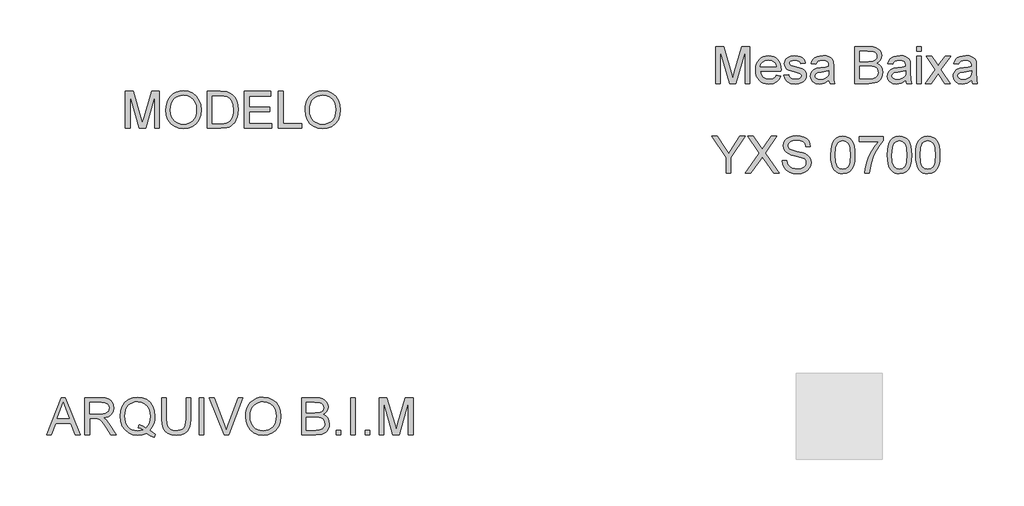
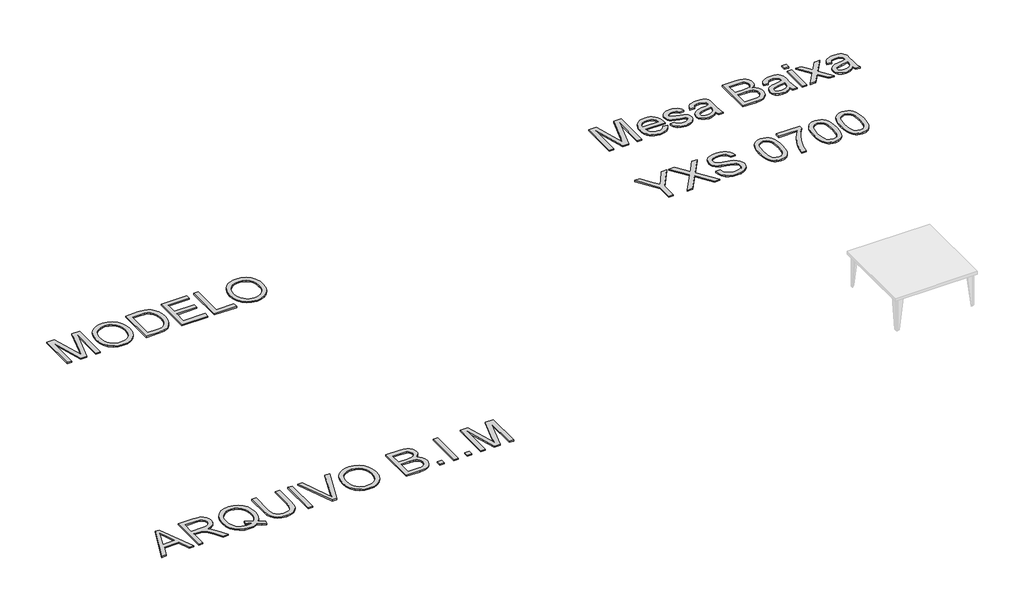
# One storey, part 22 of 26: 3 proxies.
"""IFC4 building model written with IfcOpenShell, lengths in millimetres."""

from ifc_helpers import new_model, si_unit, origin, origin_with_axes, place, context, project, spatial, polyline, outline, extrude, element, save

model = new_model("IFC4")

# Units and contexts
model_context = context("Model", 3, world=origin())
ifc_project = project(units=[si_unit("LENGTHUNIT", "METRE", prefix="MILLI")], contexts=[model_context])

# Site, building, storey
site = spatial("IfcSite", under=ifc_project)
building = spatial("IfcBuilding", under=site)
storey = spatial("IfcBuildingStorey", under=building, Name="Marelli - Linha YOUNG - Planta Baixa", Elevation=0.0)

# Proxies
placement = place(None, origin())
element("IfcBuildingElementProxy", 1, Name="300mm Arial", ObjectType="300mm Arial", at=placement, inside=storey, context=model_context, shape_type="SweptSolid", body=[
    extrude(outline(polyline([(-15155.2324867, 12585.3581335), (-15155.2324867, 12886.7270639), (-15090.4116792, 12886.7270639), (-15028.7546568, 12674.3119999), (-15016.3202454, 12629.9454313), (-15002.8557643, 12677.9908199), (-14942.2288115, 12886.7270639), (-14877.408004, 12886.7270639), (-14877.408004, 12585.3581335), (-14915.0791203, 12585.3581335), (-14915.0791203, 12849.0559476), (-14990.7892349, 12585.3581335), (-15041.8512558, 12585.3581335), (-15117.5613704, 12849.0559476), (-15117.5613704, 12585.3581335), (-15155.2324867, 12585.3581335)])), origin_with_axes(), (0.0, 0.0, 1.0), 10.0),
    extrude(outline(polyline([(-14661.2405436, 12651.282587), (-14624.3051913, 12646.5736975), (-14637.6133225, 12618.7434245), (-14658.8493107, 12597.9396977), (-14687.5349092, 12584.9718574), (-14723.1918716, 12580.6492439), (-14746.5661739, 12582.5139458), (-14767.3928933, 12588.1080514), (-14785.67203, 12597.4315607), (-14801.4035838, 12610.4844737), (-14814.0541259, 12626.903507), (-14823.0902274, 12646.3253771), (-14828.5118883, 12668.750084), (-14830.3191086, 12694.1776276), (-14828.4934942, 12720.4673947), (-14823.016651, 12743.6393619), (-14813.888579, 12763.6935292), (-14801.1092782, 12780.6298965), (-14785.4191111, 12794.0851805), (-14767.5584402, 12803.6960976), (-14747.5272656, 12809.4626479), (-14725.3255872, 12811.3848313), (-14703.8389794, 12809.4672464), (-14684.4079123, 12803.7144917), (-14667.0323858, 12794.1265672), (-14651.7123999, 12780.7034729), (-14639.2067114, 12763.8038938), (-14630.2740767, 12743.7865147), (-14624.9144959, 12720.6513357), (-14623.1279689, 12694.3983568), (-14623.3486981, 12684.2448138), (-14792.6479923, 12684.2448138), (-14786.1272839, 12656.0466588), (-14770.9797428, 12635.3165084), (-14749.1183552, 12622.5693973), (-14722.4561076, 12618.3203602), (-14702.4065389, 12620.2885289), (-14685.5207553, 12626.1930349), (-14671.7987569, 12636.4017603), (-14661.2405436, 12651.282587)]), holes=[polyline([(-14792.6479923, 12721.9159301), (-14660.7990852, 12721.9159301), (-14665.8942509, 12741.818346), (-14675.882247, 12756.0553792), (-14697.8448021, 12769.2991311), (-14725.47274, 12773.713715), (-14750.8657947, 12770.1912449), (-14771.8626596, 12759.6238346), (-14786.4583777, 12743.1519182), (-14792.6479923, 12721.9159301)])]), origin_with_axes(), (0.0, 0.0, 1.0), 10.0),
    extrude(outline(polyline([(-14599.5835212, 12651.282587), (-14561.9124049, 12655.9914765), (-14555.9711107, 12639.8782452), (-14544.4747984, 12628.0324449), (-14527.3498915, 12620.7483814), (-14504.5228137, 12618.3203602), (-14481.9716474, 12620.5460463), (-14466.1159334, 12627.2231045), (-14456.7349425, 12636.898401), (-14453.6079455, 12648.1188018), (-14456.7533366, 12657.7205219), (-14466.1895098, 12665.0413736), (-14504.9642721, 12675.7835279), (-14561.6916757, 12694.2144158), (-14576.0482706, 12703.4758451), (-14586.450134, 12715.7355126), (-14592.7685073, 12730.2116691), (-14594.8746317, 12746.1225654), (-14593.1823745, 12760.7182835), (-14588.105603, 12774.1919616), (-14580.1041696, 12786.0101707), (-14569.6379268, 12795.6394819), (-14545.6888089, 12806.7863064), (-14513.2784052, 12811.3848313), (-14488.7590702, 12809.5362243), (-14467.4403086, 12803.9904032), (-14450.2970076, 12795.289994), (-14438.3040545, 12783.9776227), (-14430.3578034, 12769.2163576), (-14425.3546083, 12750.1692673), (-14463.0257246, 12745.4603778), (-14467.7805994, 12757.3153751), (-14477.1891814, 12766.2457105), (-14491.3434412, 12771.8467139), (-14510.3353492, 12773.713715), (-14531.9668105, 12771.9294873), (-14546.3877847, 12766.5768043), (-14554.4995827, 12758.8512824), (-14557.2035154, 12749.9485381), (-14552.715355, 12738.9856547), (-14538.6622628, 12730.6715216), (-14506.2150709, 12722.6516941), (-14450.922407, 12704.9197819), (-14436.3174918, 12696.4401019), (-14425.2442437, 12684.833425), (-14418.2636829, 12670.0629629), (-14415.9368292, 12652.0919274), (-14418.668353, 12633.5138866), (-14426.8629245, 12616.0394919), (-14440.2078439, 12601.0391035), (-14458.3904115, 12589.883082), (-14480.3529666, 12582.9577034), (-14505.0378485, 12580.6492439), (-14543.0216645, 12585.1006161), (-14570.7415728, 12598.4547325), (-14589.2460372, 12620.5644404), (-14599.5835212, 12651.282587)])), origin_with_axes(), (0.0, 0.0, 1.0), 10.0),
    extrude(outline(polyline([(-14232.2901372, 12613.6114707), (-14250.2887639, 12598.178821), (-14268.8208194, 12588.0804602), (-14288.3093681, 12582.507048), (-14309.1774742, 12580.6492439), (-14340.658976, 12585.1190102), (-14363.8815269, 12598.5283089), (-14378.2013336, 12618.8905773), (-14382.9746025, 12644.2192527), (-14381.1719807, 12659.8358434), (-14375.7641154, 12674.0176943), (-14367.4223911, 12686.1578001), (-14356.8181926, 12695.6491556), (-14330.4410536, 12708.0099907), (-14297.8467088, 12713.6753734), (-14259.3294639, 12719.6350617), (-14232.5108664, 12726.6248196), (-14232.2901372, 12735.0125291), (-14234.8837053, 12751.8247363), (-14242.6644095, 12762.8244079), (-14260.0652279, 12770.9913882), (-14284.3086514, 12773.713715), (-14306.7494531, 12771.9018962), (-14322.4212261, 12766.4664397), (-14333.108198, 12756.4140642), (-14340.5945966, 12740.7514882), (-14378.2657129, 12745.4603778), (-14371.7266105, 12766.0617695), (-14361.9685405, 12782.2485773), (-14348.0809952, 12794.6278064), (-14329.1534666, 12803.8064622), (-14306.004492, 12809.490239), (-14279.452609, 12811.3848313), (-14253.9859779, 12809.7109682), (-14233.7984534, 12804.689379), (-14218.5773359, 12797.138601), (-14208.0099256, 12787.8771718), (-14201.0017736, 12776.4268447), (-14196.4584309, 12762.3093731), (-14194.6190209, 12729.3471464), (-14194.6190209, 12682.4789802), (-14192.7060346, 12617.0327733), (-14185.2012419, 12585.3581335), (-14222.8723582, 12585.3581335), (-14232.2901372, 12613.6114707)]), holes=[polyline([(-14232.2901372, 12688.9537033), (-14293.0642428, 12677.4022087), (-14325.4746466, 12671.2953675), (-14340.1531382, 12661.3625537), (-14345.3034862, 12646.8680031), (-14342.4983859, 12635.6659963), (-14334.0830853, 12626.4873405), (-14320.2415252, 12620.3621053), (-14301.1576467, 12618.3203602), (-14280.924137, 12620.5736375), (-14263.045072, 12627.3334691), (-14248.5505214, 12637.2938741), (-14238.4705548, 12649.1488714), (-14234.0007885, 12661.3625537), (-14232.5108664, 12678.2851254), (-14232.2901372, 12688.9537033)])]), origin_with_axes(), (0.0, 0.0, 1.0), 10.0),
    extrude(outline(polyline([(-14020.390108, 12585.3581335), (-14020.390108, 12886.7270639), (-13905.3901963, 12886.7270639), (-13873.7615418, 12884.5105749), (-13849.0674629, 12877.8611078), (-13830.1399342, 12866.6131158), (-13815.8109305, 12850.601052), (-13806.7886246, 12831.7654938), (-13803.7811893, 12812.0470189), (-13806.310378, 12793.9012395), (-13813.8979441, 12776.840712), (-13826.59907, 12761.9139), (-13844.4689379, 12750.1692673), (-13823.1225852, 12739.0224429), (-13807.3496446, 12722.0630829), (-13797.6099688, 12700.4132275), (-13794.3634102, 12675.1949167), (-13796.5798992, 12654.1796577), (-13803.2293663, 12634.691109), (-13813.1529831, 12618.1180251), (-13825.1919214, 12605.8491606), (-13839.9347923, 12596.9648104), (-13857.9702072, 12590.5452696), (-13906.2731131, 12585.3581335), (-14020.390108, 12585.3581335)]), holes=[polyline([(-13982.7189917, 12764.2959359), (-13913.9250586, 12764.2959359), (-13873.7523447, 12767.5332975), (-13859.6900555, 12773.1159068), (-13849.5824977, 12781.4760251), (-13843.4848536, 12792.4848938), (-13841.4523056, 12806.0137542), (-13843.3468978, 12819.1471414), (-13849.0306747, 12830.5882715), (-13858.2461186, 12839.5186069), (-13870.7357124, 12845.1196103), (-13919.1489829, 12849.0559476), (-13982.7189917, 12849.0559476), (-13982.7189917, 12764.2959359)]), polyline([(-13982.7189917, 12623.0292498), (-13905.4637727, 12623.0292498), (-13877.5047411, 12624.5007778), (-13853.8499288, 12632.7045462), (-13838.1781558, 12649.443177), (-13833.5704338, 12661.2705832), (-13832.0345265, 12674.8270347), (-13833.8371483, 12690.5723841), (-13839.2450136, 12704.1104415), (-13848.6903838, 12714.6962459), (-13862.6055203, 12721.5848363), (-13882.3147982, 12725.3648238), (-13909.1425927, 12726.6248196), (-13982.7189917, 12726.6248196), (-13982.7189917, 12623.0292498)])]), origin_with_axes(), (0.0, 0.0, 1.0), 10.0),
    extrude(outline(polyline([(-13606.0078287, 12613.6114707), (-13624.0064553, 12598.178821), (-13642.5385108, 12588.0804602), (-13662.0270595, 12582.507048), (-13682.8951656, 12580.6492439), (-13714.3766674, 12585.1190102), (-13737.5992183, 12598.5283089), (-13751.919025, 12618.8905773), (-13756.6922939, 12644.2192527), (-13754.8896721, 12659.8358434), (-13749.4818068, 12674.0176943), (-13741.1400825, 12686.1578001), (-13730.535884, 12695.6491556), (-13704.158745, 12708.0099907), (-13671.5644002, 12713.6753734), (-13633.0471553, 12719.6350617), (-13606.2285579, 12726.6248196), (-13606.0078287, 12735.0125291), (-13608.6013967, 12751.8247363), (-13616.3821009, 12762.8244079), (-13633.7829193, 12770.9913882), (-13658.0263428, 12773.713715), (-13680.4671445, 12771.9018962), (-13696.1389175, 12766.4664397), (-13706.8258894, 12756.4140642), (-13714.312288, 12740.7514882), (-13751.9834043, 12745.4603778), (-13745.4443019, 12766.0617695), (-13735.686232, 12782.2485773), (-13721.7986866, 12794.6278064), (-13702.871158, 12803.8064622), (-13679.7221834, 12809.490239), (-13653.1703004, 12811.3848313), (-13627.7036693, 12809.7109682), (-13607.5161448, 12804.689379), (-13592.2950273, 12797.138601), (-13581.727617, 12787.8771718), (-13574.719465, 12776.4268447), (-13570.1761223, 12762.3093731), (-13568.3367123, 12729.3471464), (-13568.3367123, 12682.4789802), (-13566.423726, 12617.0327733), (-13558.9189333, 12585.3581335), (-13596.5900496, 12585.3581335), (-13606.0078287, 12613.6114707)]), holes=[polyline([(-13606.0078287, 12688.9537033), (-13666.7819343, 12677.4022087), (-13699.192338, 12671.2953675), (-13713.8708296, 12661.3625537), (-13719.0211776, 12646.8680031), (-13716.2160774, 12635.6659963), (-13707.8007767, 12626.4873405), (-13693.9592167, 12620.3621053), (-13674.8753382, 12618.3203602), (-13654.6418284, 12620.5736375), (-13636.7627635, 12627.3334691), (-13622.2682128, 12637.2938741), (-13612.1882462, 12649.1488714), (-13607.7184799, 12661.3625537), (-13606.2285579, 12678.2851254), (-13606.0078287, 12688.9537033)])]), origin_with_axes(), (0.0, 0.0, 1.0), 10.0),
    extrude(outline(polyline([(-13516.5389274, 12849.0559476), (-13516.5389274, 12886.7270639), (-13478.8678111, 12886.7270639), (-13478.8678111, 12849.0559476), (-13516.5389274, 12849.0559476)])), origin_with_axes(), (0.0, 0.0, 1.0), 10.0),
    extrude(outline(polyline([(-13516.5389274, 12585.3581335), (-13516.5389274, 12806.6759418), (-13478.8678111, 12806.6759418), (-13478.8678111, 12585.3581335), (-13516.5389274, 12585.3581335)])), origin_with_axes(), (0.0, 0.0, 1.0), 10.0),
    extrude(outline(polyline([(-13445.9055844, 12585.3581335), (-13365.4130038, 12696.6056488), (-13441.1966948, 12806.6759418), (-13395.873633, 12806.6759418), (-13359.3061627, 12753.7009345), (-13342.2364381, 12728.6849588), (-13327.4475819, 12749.1391977), (-13285.8033401, 12806.6759418), (-13240.4802782, 12806.6759418), (-13320.089942, 12696.6056488), (-13243.4233342, 12585.3581335), (-13288.746396, 12585.3581335), (-13334.8787982, 12652.2390802), (-13343.3400841, 12664.4527624), (-13400.5825225, 12585.3581335), (-13445.9055844, 12585.3581335)])), origin_with_axes(), (0.0, 0.0, 1.0), 10.0),
    extrude(outline(polyline([(-13069.1944213, 12613.6114707), (-13087.1930479, 12598.178821), (-13105.7251034, 12588.0804602), (-13125.2136521, 12582.507048), (-13146.0817583, 12580.6492439), (-13177.56326, 12585.1190102), (-13200.785811, 12598.5283089), (-13215.1056176, 12618.8905773), (-13219.8788865, 12644.2192527), (-13218.0762647, 12659.8358434), (-13212.6683994, 12674.0176943), (-13204.3266752, 12686.1578001), (-13193.7224767, 12695.6491556), (-13167.3453376, 12708.0099907), (-13134.7509928, 12713.6753734), (-13096.2337479, 12719.6350617), (-13069.4151505, 12726.6248196), (-13069.1944213, 12735.0125291), (-13071.7879894, 12751.8247363), (-13079.5686936, 12762.8244079), (-13096.9695119, 12770.9913882), (-13121.2129354, 12773.713715), (-13143.6537371, 12771.9018962), (-13159.3255101, 12766.4664397), (-13170.0124821, 12756.4140642), (-13177.4988807, 12740.7514882), (-13215.169997, 12745.4603778), (-13208.6308945, 12766.0617695), (-13198.8728246, 12782.2485773), (-13184.9852793, 12794.6278064), (-13166.0577506, 12803.8064622), (-13142.9087761, 12809.490239), (-13116.3568931, 12811.3848313), (-13090.890262, 12809.7109682), (-13070.7027375, 12804.689379), (-13055.4816199, 12797.138601), (-13044.9142096, 12787.8771718), (-13037.9060576, 12776.4268447), (-13033.362715, 12762.3093731), (-13031.523305, 12729.3471464), (-13031.523305, 12682.4789802), (-13029.6103186, 12617.0327733), (-13022.1055259, 12585.3581335), (-13059.7766422, 12585.3581335), (-13069.1944213, 12613.6114707)]), holes=[polyline([(-13069.1944213, 12688.9537033), (-13129.9685269, 12677.4022087), (-13162.3789307, 12671.2953675), (-13177.0574223, 12661.3625537), (-13182.2077702, 12646.8680031), (-13179.40267, 12635.6659963), (-13170.9873694, 12626.4873405), (-13157.1458093, 12620.3621053), (-13138.0619308, 12618.3203602), (-13117.8284211, 12620.5736375), (-13099.9493561, 12627.3334691), (-13085.4548055, 12637.2938741), (-13075.3748388, 12649.1488714), (-13070.9050726, 12661.3625537), (-13069.4151505, 12678.2851254), (-13069.1944213, 12688.9537033)])]), origin_with_axes(), (0.0, 0.0, 1.0), 10.0),
    extrude(outline(polyline([(-14915.0791203, 11853.5092264), (-14798.9019862, 12017.731749), (-14896.2435621, 12154.8781568), (-14851.0676531, 12154.8781568), (-14796.2532358, 12077.6965143), (-14777.7855597, 12047.6037671), (-14756.1540984, 12078.2115491), (-14701.9282923, 12154.8781568), (-14656.0901957, 12154.8781568), (-14753.4317716, 12017.2902906), (-14637.2546375, 11853.5092264), (-14682.4305465, 11853.5092264), (-14759.8329183, 11962.6966026), (-14775.9461497, 11985.3581335), (-14793.6780619, 11960.4893106), (-14869.2410237, 11853.5092264), (-14915.0791203, 11853.5092264)])), origin_with_axes(), (0.0, 0.0, 1.0), 10.0),
    extrude(outline(polyline([(-15070.4724751, 11853.5092264), (-15070.4724751, 11981.1642787), (-15188.1947135, 12154.8781568), (-15143.7545685, 12154.8781568), (-15080.9203237, 12062.0983177), (-15048.7674373, 12014.7886931), (-15016.5409746, 12065.482832), (-14959.5192653, 12154.8781568), (-14915.0791203, 12154.8781568), (-15032.8013587, 11981.1642787), (-15032.8013587, 11853.5092264), (-15070.4724751, 11853.5092264)])), origin_with_axes(), (0.0, 0.0, 1.0), 10.0),
    extrude(outline(polyline([(-14613.7101898, 11957.1047962), (-14576.0390735, 11957.1047962), (-14571.7164601, 11936.1999019), (-14563.8989677, 11919.3968917), (-14551.7036796, 11906.0611694), (-14534.2476789, 11895.5581384), (-14512.9105232, 11888.7431245), (-14489.0717699, 11886.4714532), (-14468.0841021, 11888.1913015), (-14449.7083964, 11893.3508465), (-14434.8183726, 11901.5178268), (-14424.2877505, 11912.259981), (-14418.0245596, 11924.5932249), (-14415.9368292, 11937.5334741), (-14417.5003277, 11950.1426295), (-14422.1908232, 11961.0411336), (-14431.7189668, 11970.339351), (-14447.79541, 11978.1476464), (-14502.6466155, 11992.5318324), (-14538.6530658, 12002.050779), (-14561.6916757, 12011.1098731), (-14580.4444604, 12023.7834079), (-14593.7341975, 12039.1424812), (-14601.6528575, 12056.8559992), (-14604.2924108, 12076.5928683), (-14601.0274581, 12098.6565909), (-14591.2325999, 12119.2303915), (-14575.1653538, 12136.6679981), (-14553.083237, 12149.3231387), (-14526.5773393, 12157.0210695), (-14497.2387502, 12159.5870464), (-14465.4537458, 12156.9015078), (-14437.641867, 12148.8448921), (-14414.7963951, 12135.5827462), (-14397.9106115, 12117.2806169), (-14387.2236395, 12095.0789385), (-14382.9746025, 12070.1181452), (-14420.6457188, 12070.1181452), (-14427.5619003, 12092.5957351), (-14441.9828745, 12108.819331), (-14464.5156467, 12118.6417803), (-14495.7672222, 12121.9159301), (-14527.7545617, 12118.6785685), (-14549.6987227, 12108.9664838), (-14562.3906515, 12094.6742683), (-14566.6212945, 12077.6965143), (-14563.6230562, 12063.2203577), (-14554.6283414, 12051.5768926), (-14533.3647621, 12041.1658321), (-14493.1184718, 12030.5340425), (-14451.5845946, 12020.4356817), (-14426.4582543, 12011.6249079), (-14404.9831428, 11997.9580918), (-14390.0011486, 11981.0907023), (-14381.1995718, 11961.2066805), (-14378.2657129, 11938.4899673), (-14381.6410302, 11915.2674163), (-14391.7669822, 11893.4244229), (-14408.2297014, 11874.6256529), (-14430.6153208, 11860.5357725), (-14457.5350858, 11851.7341958), (-14487.6002419, 11848.8003369), (-14524.5080031, 11851.964122), (-14554.8858588, 11861.4554775), (-14579.083297, 11877.3111915), (-14597.4498057, 11899.5680522), (-14609.2404236, 11926.6809552), (-14613.7101898, 11957.1047962)])), origin_with_axes(), (0.0, 0.0, 1.0), 10.0),
    extrude(outline(polyline([(-14218.1634686, 12001.7656705), (-14215.3951566, 12050.0041971), (-14207.0902206, 12088.4754567), (-14193.331434, 12117.7680606), (-14174.2015702, 12138.4706199), (-14149.5626736, 12150.7762726), (-14119.2767883, 12154.8781568), (-14096.0634344, 12152.4501357), (-14075.2781017, 12145.1660722), (-14057.8956774, 12133.3110749), (-14044.8910489, 12117.1702523), (-14035.0685996, 12096.8815603), (-14027.2327131, 12072.5829545), (-14022.1007593, 12041.7268522), (-14020.390108, 12001.7656705), (-14023.1308289, 11953.8030553), (-14031.3529915, 11915.4237662), (-14045.0290046, 11886.1035712), (-14064.1312772, 11865.3182384), (-14088.8253562, 11852.9298123), (-14119.2767883, 11848.8003369), (-14140.0253329, 11850.5937616), (-14158.4194326, 11855.9740358), (-14174.4590876, 11864.9411594), (-14188.1442978, 11877.4951325), (-14201.2776851, 11900.1888531), (-14210.6586759, 11928.4651829), (-14216.2872705, 11962.324122), (-14218.1634686, 12001.7656705)]), holes=[polyline([(-14180.4923523, 12001.8392469), (-14176.0777684, 11942.5826545), (-14170.5595385, 11922.3146558), (-14162.8340166, 11908.2868555), (-14143.1155416, 11891.9253037), (-14119.2767883, 11886.4714532), (-14095.438035, 11891.9436978), (-14075.7195601, 11908.3604319), (-14067.9940382, 11922.4112248), (-14062.4758083, 11942.674625), (-14058.0612243, 12001.8392469), (-14062.3286555, 12059.762267), (-14067.6629444, 12079.9635871), (-14075.1309489, 12094.3247804), (-14094.8126356, 12111.4864755), (-14119.7182467, 12117.2070405), (-14143.2994826, 12112.1670572), (-14162.2454054, 12097.0471072), (-14170.2284447, 12081.4121224), (-14175.9306156, 12060.3324841), (-14180.4923523, 12001.8392469)])]), origin_with_axes(), (0.0, 0.0, 1.0), 10.0),
    extrude(outline(polyline([(-13987.4278813, 12112.498151), (-13987.4278813, 12150.1692673), (-13789.6545206, 12150.1692673), (-13789.6545206, 12119.7086381), (-13817.8434785, 12084.0332816), (-13845.7565249, 12038.6642346), (-13870.3770274, 11987.7401694), (-13888.6883537, 11935.3997585), (-13897.6646744, 11896.2387201), (-13902.6678696, 11853.5092264), (-13940.3389859, 11853.5092264), (-13936.2646928, 11892.339171), (-13925.3661887, 11938.4899673), (-13907.9377791, 11987.4090756), (-13884.2737698, 12034.5439562), (-13856.645832, 12077.1538883), (-13827.325637, 12112.498151), (-13987.4278813, 12112.498151)])), origin_with_axes(), (0.0, 0.0, 1.0), 10.0),
    extrude(outline(polyline([(-13756.6922939, 12001.7656705), (-13753.9239819, 12050.0041971), (-13745.6190458, 12088.4754567), (-13731.8602592, 12117.7680606), (-13712.7303955, 12138.4706199), (-13688.0914988, 12150.7762726), (-13657.8056136, 12154.8781568), (-13634.5922597, 12152.4501357), (-13613.806927, 12145.1660722), (-13596.4245027, 12133.3110749), (-13583.4198742, 12117.1702523), (-13573.5974249, 12096.8815603), (-13565.7615384, 12072.5829545), (-13560.6295845, 12041.7268522), (-13558.9189333, 12001.7656705), (-13561.6596541, 11953.8030553), (-13569.8818167, 11915.4237662), (-13583.5578299, 11886.1035712), (-13602.6601025, 11865.3182384), (-13627.3541814, 11852.9298123), (-13657.8056136, 11848.8003369), (-13678.5541581, 11850.5937616), (-13696.9482579, 11855.9740358), (-13712.9879129, 11864.9411594), (-13726.6731231, 11877.4951325), (-13739.8065103, 11900.1888531), (-13749.1875012, 11928.4651829), (-13754.8160957, 11962.324122), (-13756.6922939, 12001.7656705)]), holes=[polyline([(-13719.0211776, 12001.8392469), (-13714.6065936, 11942.5826545), (-13709.0883637, 11922.3146558), (-13701.3628418, 11908.2868555), (-13681.6443669, 11891.9253037), (-13657.8056136, 11886.4714532), (-13633.9668603, 11891.9436978), (-13614.2483853, 11908.3604319), (-13606.5228634, 11922.4112248), (-13601.0046335, 11942.674625), (-13596.5900496, 12001.8392469), (-13600.8574807, 12059.762267), (-13606.1917697, 12079.9635871), (-13613.6597742, 12094.3247804), (-13633.3414609, 12111.4864755), (-13658.247072, 12117.2070405), (-13681.8283079, 12112.1670572), (-13700.7742306, 12097.0471072), (-13708.7572699, 12081.4121224), (-13714.4594408, 12060.3324841), (-13719.0211776, 12001.8392469)])]), origin_with_axes(), (0.0, 0.0, 1.0), 10.0),
    extrude(outline(polyline([(-13525.9567065, 12001.7656705), (-13523.1883945, 12050.0041971), (-13514.8834584, 12088.4754567), (-13501.1246718, 12117.7680606), (-13481.9948081, 12138.4706199), (-13457.3559115, 12150.7762726), (-13427.0700262, 12154.8781568), (-13403.8566723, 12152.4501357), (-13383.0713396, 12145.1660722), (-13365.6889153, 12133.3110749), (-13352.6842868, 12117.1702523), (-13342.8618375, 12096.8815603), (-13335.025951, 12072.5829545), (-13329.8939972, 12041.7268522), (-13328.1833459, 12001.7656705), (-13330.9240668, 11953.8030553), (-13339.1462294, 11915.4237662), (-13352.8222425, 11886.1035712), (-13371.9245151, 11865.3182384), (-13396.618594, 11852.9298123), (-13427.0700262, 11848.8003369), (-13447.8185707, 11850.5937616), (-13466.2126705, 11855.9740358), (-13482.2523255, 11864.9411594), (-13495.9375357, 11877.4951325), (-13509.0709229, 11900.1888531), (-13518.4519138, 11928.4651829), (-13524.0805083, 11962.324122), (-13525.9567065, 12001.7656705)]), holes=[polyline([(-13488.2855902, 12001.8392469), (-13483.8710063, 11942.5826545), (-13478.3527763, 11922.3146558), (-13470.6272544, 11908.2868555), (-13450.9087795, 11891.9253037), (-13427.0700262, 11886.4714532), (-13403.2312729, 11891.9436978), (-13383.512798, 11908.3604319), (-13375.7872761, 11922.4112248), (-13370.2690461, 11942.674625), (-13365.8544622, 12001.8392469), (-13370.1218933, 12059.762267), (-13375.4561823, 12079.9635871), (-13382.9241868, 12094.3247804), (-13402.6058735, 12111.4864755), (-13427.5114846, 12117.2070405), (-13451.0927205, 12112.1670572), (-13470.0386432, 12097.0471072), (-13478.0216825, 12081.4121224), (-13483.7238535, 12060.3324841), (-13488.2855902, 12001.8392469)])]), origin_with_axes(), (0.0, 0.0, 1.0), 10.0),
])
element("IfcBuildingElementProxy", 2, Name="300mm Arial", ObjectType="300mm Arial", at=placement, inside=storey, context=model_context, shape_type="SweptSolid", body=[
    extrude(outline(polyline([(-20609.419598, 9719.4336799), (-20489.1221856, 10020.8026104), (-20457.0428756, 10020.8026104), (-20336.7454632, 9719.4336799), (-20376.550295, 9719.4336799), (-20411.0576262, 9813.6114707), (-20535.1810114, 9813.6114707), (-20569.6147661, 9719.4336799), (-20609.419598, 9719.4336799)]), holes=[polyline([(-20521.3486483, 9851.282587), (-20424.8164128, 9851.282587), (-20451.9661041, 9925.3740208), (-20473.0825306, 9983.1314941), (-20491.8445123, 9931.8487439), (-20521.3486483, 9851.282587)])]), origin_with_axes(), (0.0, 0.0, 1.0), 10.0),
    extrude(outline(polyline([(-20296.4991729, 9719.4336799), (-20296.4991729, 10020.8026104), (-20166.6368286, 10020.8026104), (-20131.7340243, 10018.7700624), (-20106.3409696, 10012.6724183), (-20087.7813229, 10001.4152292), (-20073.3787428, 9983.9040463), (-20064.1357077, 9962.1898115), (-20061.054696, 9938.3234671), (-20066.1590587, 9908.6353901), (-20081.4721467, 9884.0240846), (-20093.0719259, 9873.9947017), (-20107.4538126, 9865.9794727), (-20144.5639089, 9855.9914765), (-20123.1531768, 9839.8782452), (-20092.6189712, 9801.1034829), (-20042.3662906, 9719.4336799), (-20086.144248, 9719.4336799), (-20125.3604687, 9781.9000427), (-20153.6873824, 9823.249979), (-20173.5897983, 9842.7845129), (-20191.5056515, 9849.9582118), (-20213.357842, 9851.282587), (-20258.8280566, 9851.282587), (-20258.8280566, 9719.4336799), (-20296.4991729, 9719.4336799)]), holes=[polyline([(-20258.8280566, 9888.9537033), (-20174.5095033, 9888.9537033), (-20150.293671, 9890.2872755), (-20131.5040981, 9894.2879922), (-20117.3590353, 9901.2225678), (-20107.0767336, 9911.3577168), (-20100.8135426, 9923.6173843), (-20098.7258123, 9936.9255155), (-20102.7081349, 9955.3012211), (-20114.6551027, 9970.1084714), (-20135.2105092, 9979.8757384), (-20165.0181478, 9983.1314941), (-20258.8280566, 9983.1314941), (-20258.8280566, 9888.9537033)])]), origin_with_axes(), (0.0, 0.0, 1.0), 10.0),
    extrude(outline(polyline([(-19768.7356626, 9755.5596919), (-19744.4002686, 9736.963257), (-19722.0146492, 9724.1425695), (-19732.1681923, 9696.5514198), (-19763.2358268, 9710.9539999), (-19794.1930967, 9731.794515), (-19829.0499157, 9718.9922215), (-19867.4016137, 9714.7247904), (-19905.9372527, 9719.6452121), (-19940.7572836, 9734.4064771), (-19969.9211287, 9758.0796835), (-19991.4882107, 9789.7359292), (-20004.814736, 9827.6369718), (-20009.2569111, 9870.0445688), (-20004.823933, 9912.488954), (-19991.5249989, 9950.9418195), (-19970.0406904, 9983.0487206), (-19941.0515892, 10006.4552126), (-19906.360317, 10020.7474281), (-19867.7694957, 10025.5114999), (-19828.8751718, 10020.6370635), (-19794.0091557, 10006.0137542), (-19765.0660397, 9982.6164593), (-19743.9404161, 9951.4200661), (-19731.0277581, 9914.0800436), (-19726.7235388, 9872.2518607), (-19729.3355009, 9837.4686181), (-19737.1713874, 9806.4009836), (-19750.2863806, 9779.0857454), (-19768.7356626, 9755.5596919)]), holes=[polyline([(-19857.0273415, 9805.6652196), (-19825.3527017, 9793.6906607), (-19799.784903, 9777.0440004), (-19784.3016695, 9794.5183951), (-19773.2422171, 9815.8923391), (-19766.6065456, 9841.1658321), (-19764.3946551, 9870.3388744), (-19767.521652, 9903.4942392), (-19776.9026429, 9932.1798377), (-19792.3077015, 9955.6691031), (-19813.5069014, 9973.2354684), (-19839.065503, 9984.1891548), (-19867.5487665, 9987.8403836), (-19889.033075, 9985.9940758), (-19908.6043972, 9980.4551526), (-19926.2627329, 9971.2236137), (-19942.0080823, 9958.2994594), (-19954.9483315, 9941.7102807), (-19964.1913666, 9921.4836687), (-19969.7371877, 9897.6196236), (-19971.5857948, 9870.1181452), (-19969.7578811, 9843.3340366), (-19964.2741401, 9819.8562676), (-19955.1345718, 9799.6848379), (-19942.3391761, 9782.8197477), (-19926.7018921, 9769.5093173), (-19909.0366585, 9760.001867), (-19889.3434755, 9754.2973968), (-19867.6223429, 9752.3959067), (-19846.7082515, 9754.3272872), (-19827.081747, 9760.1214286), (-19846.3771577, 9770.146213), (-19866.7394261, 9776.8232712), (-19857.0273415, 9805.6652196)])]), origin_with_axes(), (0.0, 0.0, 1.0), 10.0),
    extrude(outline(polyline([(-19472.4435037, 10020.8026104), (-19434.7723874, 10020.8026104), (-19434.7723874, 9846.9415795), (-19437.3291673, 9806.2262396), (-19444.9995069, 9774.8734966), (-19459.3285106, 9750.6852554), (-19481.8612828, 9731.4634212), (-19512.6530058, 9718.9094481), (-19551.7588619, 9714.7247904), (-19590.0093923, 9718.3668221), (-19620.5895832, 9729.2929174), (-19643.5086315, 9747.1259971), (-19658.7757343, 9771.4889822), (-19667.3565818, 9804.1661005), (-19670.2168643, 9846.9415795), (-19670.2168643, 10020.8026104), (-19632.545748, 10020.8026104), (-19632.545748, 9848.2659546), (-19630.6879439, 9814.411614), (-19625.1145317, 9790.8395752), (-19615.0161709, 9774.5148117), (-19599.5835212, 9762.402297), (-19579.4603761, 9754.8975043), (-19555.290529, 9752.3959067), (-19516.9756192, 9757.3439195), (-19502.6328199, 9763.5289356), (-19491.499791, 9772.187958), (-19483.1626653, 9784.3648521), (-19477.2075755, 9801.1034829), (-19472.4435037, 9848.2659546), (-19472.4435037, 10020.8026104)])), origin_with_axes(), (0.0, 0.0, 1.0), 10.0),
    extrude(outline(polyline([(-19364.1390443, 9719.4336799), (-19364.1390443, 10020.8026104), (-19326.467928, 10020.8026104), (-19326.467928, 9719.4336799), (-19364.1390443, 9719.4336799)])), origin_with_axes(), (0.0, 0.0, 1.0), 10.0),
    extrude(outline(polyline([(-19162.0982526, 9719.4336799), (-19282.027783, 10020.8026104), (-19241.7079163, 10020.8026104), (-19161.436065, 9803.6786568), (-19145.1756808, 9754.7503515), (-19129.1360258, 9803.6786568), (-19048.6434453, 10020.8026104), (-19008.3235786, 10020.8026104), (-19123.1763375, 9719.4336799), (-19162.0982526, 9719.4336799)])), origin_with_axes(), (0.0, 0.0, 1.0), 10.0),
    extrude(outline(polyline([(-18987.4278813, 9866.1450196), (-18984.9170866, 9901.4938808), (-18977.3847028, 9932.786843), (-18964.8307297, 9960.0239063), (-18947.2551674, 9983.2050705), (-18925.711078, 10001.7141334), (-18901.2515239, 10014.9348926), (-18873.8765049, 10022.8673481), (-18843.5860211, 10025.5114999), (-18804.0571008, 10020.545093), (-18768.6116705, 10005.6458722), (-18739.1811109, 9981.8623012), (-18717.6968024, 9950.2428437), (-18704.5634152, 9912.31421), (-18700.1856194, 9869.6031104), (-18704.7933414, 9826.3217936), (-18718.6165074, 9787.859731), (-18740.8917622, 9756.1850913), (-18770.8557507, 9733.266043), (-18805.9976783, 9719.3601035), (-18843.8067503, 9714.7247904), (-18883.942676, 9719.8475472), (-18919.5904413, 9735.2158175), (-18948.9474246, 9759.4408469), (-18970.2110039, 9791.1338808), (-18983.1236619, 9827.6001836), (-18987.4278813, 9866.1450196)]), holes=[polyline([(-18949.7567649, 9865.7771376), (-18947.873669, 9840.8025487), (-18942.2243811, 9818.6330599), (-18932.8089013, 9799.2686714), (-18919.6272295, 9782.7093831), (-18903.6036694, 9769.4472372), (-18885.6625243, 9759.9742758), (-18865.8037944, 9754.290499), (-18844.0274795, 9752.3959067), (-18821.8786842, 9754.3088931), (-18801.7854294, 9760.0478522), (-18783.7477154, 9769.6127841), (-18767.7655419, 9783.0036887), (-18754.6804392, 9799.9124649), (-18745.3339373, 9820.0310115), (-18739.7260361, 9843.3593285), (-18737.8567357, 9869.897416), (-18741.0573091, 9903.2459188), (-18750.6590292, 9932.0694731), (-18766.4135756, 9955.641512), (-18788.0726281, 9973.2354684), (-18814.2014468, 9984.1891548), (-18843.3652919, 9987.8403836), (-18864.3851494, 9986.0814478), (-18883.8874937, 9980.8046405), (-18901.8723248, 9972.0099615), (-18918.3396426, 9959.697411), (-18932.0846336, 9943.2737792), (-18941.9024844, 9922.1458563), (-18947.7931948, 9896.3136425), (-18949.7567649, 9865.7771376)])]), origin_with_axes(), (0.0, 0.0, 1.0), 10.0),
    extrude(outline(polyline([(-18530.665596, 9719.4336799), (-18530.665596, 10020.8026104), (-18415.6656844, 10020.8026104), (-18384.0370298, 10018.5861214), (-18359.3429509, 10011.9366543), (-18340.4154222, 10000.6886623), (-18326.0864185, 9984.6765985), (-18317.0641126, 9965.8410403), (-18314.0566773, 9946.1225654), (-18316.585866, 9927.9767859), (-18324.1734321, 9910.9162584), (-18336.874558, 9895.9894465), (-18354.7444259, 9884.2448138), (-18333.3980732, 9873.0979893), (-18317.6251326, 9856.1386293), (-18307.8854568, 9834.4887739), (-18304.6388982, 9809.2704632), (-18306.8553872, 9788.2552042), (-18313.5048543, 9768.7666555), (-18323.4284711, 9752.1935716), (-18335.4674094, 9739.9247071), (-18350.2102804, 9731.0403569), (-18368.2456952, 9724.6208161), (-18416.5486011, 9719.4336799), (-18530.665596, 9719.4336799)]), holes=[polyline([(-18492.9944797, 9898.3714824), (-18424.2005466, 9898.3714824), (-18384.0278328, 9901.6088439), (-18369.9655435, 9907.1914532), (-18359.8579857, 9915.5515716), (-18353.7603416, 9926.5604403), (-18351.7277936, 9940.0893006), (-18353.6223859, 9953.2226879), (-18359.3061627, 9964.6638179), (-18368.5216067, 9973.5941533), (-18381.0112004, 9979.1951567), (-18429.424471, 9983.1314941), (-18492.9944797, 9983.1314941), (-18492.9944797, 9898.3714824)]), polyline([(-18492.9944797, 9757.1047962), (-18415.7392607, 9757.1047962), (-18387.7802291, 9758.5763242), (-18364.1254168, 9766.7800927), (-18348.4536438, 9783.5187235), (-18343.8459218, 9795.3461296), (-18342.3100145, 9808.9025812), (-18344.1126363, 9824.6479306), (-18349.5205016, 9838.185988), (-18358.9658718, 9848.7717924), (-18372.8810083, 9855.6603827), (-18392.5902862, 9859.4403702), (-18419.4180807, 9860.7003661), (-18492.9944797, 9860.7003661), (-18492.9944797, 9757.1047962)])]), origin_with_axes(), (0.0, 0.0, 1.0), 10.0),
    extrude(outline(polyline([(-18248.1322237, 9719.4336799), (-18248.1322237, 9757.1047962), (-18210.4611074, 9757.1047962), (-18210.4611074, 9719.4336799), (-18248.1322237, 9719.4336799)])), origin_with_axes(), (0.0, 0.0, 1.0), 10.0),
    extrude(outline(polyline([(-18130.4099853, 9719.4336799), (-18130.4099853, 10020.8026104), (-18092.738869, 10020.8026104), (-18092.738869, 9719.4336799), (-18130.4099853, 9719.4336799)])), origin_with_axes(), (0.0, 0.0, 1.0), 10.0),
    extrude(outline(polyline([(-18012.6877468, 9719.4336799), (-18012.6877468, 9757.1047962), (-17975.0166305, 9757.1047962), (-17975.0166305, 9719.4336799), (-18012.6877468, 9719.4336799)])), origin_with_axes(), (0.0, 0.0, 1.0), 10.0),
    extrude(outline(polyline([(-17899.6743979, 9719.4336799), (-17899.6743979, 10020.8026104), (-17834.8535904, 10020.8026104), (-17773.196568, 9808.3875464), (-17760.7621565, 9764.0209777), (-17747.2976755, 9812.0663663), (-17686.6707227, 10020.8026104), (-17621.8499152, 10020.8026104), (-17621.8499152, 9719.4336799), (-17659.5210315, 9719.4336799), (-17659.5210315, 9983.1314941), (-17735.2311461, 9719.4336799), (-17786.293167, 9719.4336799), (-17862.0032816, 9983.1314941), (-17862.0032816, 9719.4336799), (-17899.6743979, 9719.4336799)])), origin_with_axes(), (0.0, 0.0, 1.0), 10.0),
])
element("IfcBuildingElementProxy", 3, Name="300mm Arial", ObjectType="300mm Arial", at=placement, inside=storey, context=model_context, shape_type="SweptSolid", body=[
    extrude(outline(polyline([(-19966.8769052, 12219.4336799), (-19966.8769052, 12520.8026104), (-19902.0560977, 12520.8026104), (-19840.3990753, 12308.3875464), (-19827.9646638, 12264.0209777), (-19814.5001828, 12312.0663663), (-19753.87323, 12520.8026104), (-19689.0524225, 12520.8026104), (-19689.0524225, 12219.4336799), (-19726.7235388, 12219.4336799), (-19726.7235388, 12483.1314941), (-19802.4336534, 12219.4336799), (-19853.4956743, 12219.4336799), (-19929.2057889, 12483.1314941), (-19929.2057889, 12219.4336799), (-19966.8769052, 12219.4336799)])), origin_with_axes(), (0.0, 0.0, 1.0), 10.0),
    extrude(outline(polyline([(-19637.2546375, 12366.1450196), (-19634.7438429, 12401.4938808), (-19627.2114591, 12432.786843), (-19614.657486, 12460.0239063), (-19597.0819237, 12483.2050705), (-19575.5378343, 12501.7141334), (-19551.0782802, 12514.9348926), (-19523.7032612, 12522.8673481), (-19493.4127774, 12525.5114999), (-19453.883857, 12520.545093), (-19418.4384268, 12505.6458722), (-19389.0078672, 12481.8623012), (-19367.5235587, 12450.2428437), (-19354.3901714, 12412.31421), (-19350.0123757, 12369.6031104), (-19354.6200977, 12326.3217936), (-19368.4432637, 12287.859731), (-19390.7185185, 12256.1850913), (-19420.682507, 12233.266043), (-19455.8244346, 12219.3601035), (-19493.6335066, 12214.7247904), (-19533.7694323, 12219.8475472), (-19569.4171976, 12235.2158175), (-19598.7741808, 12259.4408469), (-19620.0377602, 12291.1338808), (-19632.9504182, 12327.6001836), (-19637.2546375, 12366.1450196)]), holes=[polyline([(-19599.5835212, 12365.7771376), (-19597.7004253, 12340.8025487), (-19592.0511374, 12318.6330599), (-19582.6356576, 12299.2686714), (-19569.4539858, 12282.7093831), (-19553.4304257, 12269.4472372), (-19535.4892806, 12259.9742758), (-19515.6305507, 12254.290499), (-19493.8542358, 12252.3959067), (-19471.7054404, 12254.3088931), (-19451.6121857, 12260.0478522), (-19433.5744716, 12269.6127841), (-19417.5922982, 12283.0036887), (-19404.5071955, 12299.9124649), (-19395.1606936, 12320.0310115), (-19389.5527924, 12343.3593285), (-19387.683492, 12369.897416), (-19390.8840654, 12403.2459188), (-19400.4857854, 12432.0694731), (-19416.2403319, 12455.641512), (-19437.8993843, 12473.2354684), (-19464.0282031, 12484.1891548), (-19493.1920482, 12487.8403836), (-19514.2119057, 12486.0814478), (-19533.71425, 12480.8046405), (-19551.699081, 12472.0099615), (-19568.1663988, 12459.697411), (-19581.9113899, 12443.2737792), (-19591.7292406, 12422.1458563), (-19597.6199511, 12396.3136425), (-19599.5835212, 12365.7771376)])]), origin_with_axes(), (0.0, 0.0, 1.0), 10.0),
    extrude(outline(polyline([(-19298.2145908, 12219.4336799), (-19298.2145908, 12520.8026104), (-19194.2511389, 12520.8026104), (-19140.4667912, 12516.4616028), (-19116.444097, 12508.0922874), (-19096.173799, 12494.9037179), (-19075.333284, 12471.9478814), (-19060.4892455, 12443.4002386), (-19051.6048953, 12409.8126124), (-19048.6434453, 12371.7368259), (-19050.6484021, 12339.3908015), (-19056.6632727, 12310.9259321), (-19065.8235344, 12286.6917057), (-19077.2646645, 12267.0376101), (-19090.4348399, 12251.522187), (-19104.7822377, 12239.7039779), (-19121.254154, 12230.9391893), (-19140.797885, 12224.5840279), (-19189.2479438, 12219.4336799), (-19298.2145908, 12219.4336799)]), holes=[polyline([(-19260.5434745, 12257.1047962), (-19193.8832569, 12257.1047962), (-19166.3105014, 12258.4659596), (-19145.39641, 12262.5494498), (-19129.6142724, 12269.1161434), (-19117.4373783, 12277.9269172), (-19104.3499764, 12294.2332866), (-19094.5183301, 12315.3405161), (-19088.3655037, 12341.3405761), (-19086.3145616, 12372.3254371), (-19090.3336724, 12413.3810678), (-19102.3910047, 12443.6945442), (-19120.2056904, 12464.5166651), (-19141.4968608, 12477.0982294), (-19163.1651104, 12481.6231779), (-19194.9133265, 12483.1314941), (-19260.5434745, 12483.1314941), (-19260.5434745, 12257.1047962)])]), origin_with_axes(), (0.0, 0.0, 1.0), 10.0),
    extrude(outline(polyline([(-18996.8456603, 12219.4336799), (-18996.8456603, 12520.8026104), (-18780.2367416, 12520.8026104), (-18780.2367416, 12483.1314941), (-18959.174544, 12483.1314941), (-18959.174544, 12393.6625928), (-18789.6545206, 12393.6625928), (-18789.6545206, 12355.9914765), (-18959.174544, 12355.9914765), (-18959.174544, 12257.1047962), (-18775.527852, 12257.1047962), (-18775.527852, 12219.4336799), (-18996.8456603, 12219.4336799)])), origin_with_axes(), (0.0, 0.0, 1.0), 10.0),
    extrude(outline(polyline([(-18719.0211776, 12219.4336799), (-18719.0211776, 12520.8026104), (-18681.3500613, 12520.8026104), (-18681.3500613, 12257.1047962), (-18530.665596, 12257.1047962), (-18530.665596, 12219.4336799), (-18719.0211776, 12219.4336799)])), origin_with_axes(), (0.0, 0.0, 1.0), 10.0),
    extrude(outline(polyline([(-18502.4122588, 12366.1450196), (-18499.9014642, 12401.4938808), (-18492.3690803, 12432.786843), (-18479.8151073, 12460.0239063), (-18462.2395449, 12483.2050705), (-18440.6954556, 12501.7141334), (-18416.2359014, 12514.9348926), (-18388.8608825, 12522.8673481), (-18358.5703987, 12525.5114999), (-18319.0414783, 12520.545093), (-18283.5960481, 12505.6458722), (-18254.1654885, 12481.8623012), (-18232.6811799, 12450.2428437), (-18219.5477927, 12412.31421), (-18215.169997, 12369.6031104), (-18219.777719, 12326.3217936), (-18233.6008849, 12287.859731), (-18255.8761397, 12256.1850913), (-18285.8401283, 12233.266043), (-18320.9820558, 12219.3601035), (-18358.7911279, 12214.7247904), (-18398.9270536, 12219.8475472), (-18434.5748189, 12235.2158175), (-18463.9318021, 12259.4408469), (-18485.1953814, 12291.1338808), (-18498.1080395, 12327.6001836), (-18502.4122588, 12366.1450196)]), holes=[polyline([(-18464.7411425, 12365.7771376), (-18462.8580465, 12340.8025487), (-18457.2087587, 12318.6330599), (-18447.7932788, 12299.2686714), (-18434.6116071, 12282.7093831), (-18418.5880469, 12269.4472372), (-18400.6469019, 12259.9742758), (-18380.7881719, 12254.290499), (-18359.0118571, 12252.3959067), (-18336.8630617, 12254.3088931), (-18316.769807, 12260.0478522), (-18298.7320929, 12269.6127841), (-18282.7499195, 12283.0036887), (-18269.6648168, 12299.9124649), (-18260.3183148, 12320.0310115), (-18254.7104137, 12343.3593285), (-18252.8411133, 12369.897416), (-18256.0416866, 12403.2459188), (-18265.6434067, 12432.0694731), (-18281.3979532, 12455.641512), (-18303.0570056, 12473.2354684), (-18329.1858243, 12484.1891548), (-18358.3496695, 12487.8403836), (-18379.369527, 12486.0814478), (-18398.8718713, 12480.8046405), (-18416.8567023, 12472.0099615), (-18433.3240201, 12459.697411), (-18447.0690112, 12443.2737792), (-18456.8868619, 12422.1458563), (-18462.7775724, 12396.3136425), (-18464.7411425, 12365.7771376)])]), origin_with_axes(), (0.0, 0.0, 1.0), 10.0),
])

save(model, "model.ifc")
